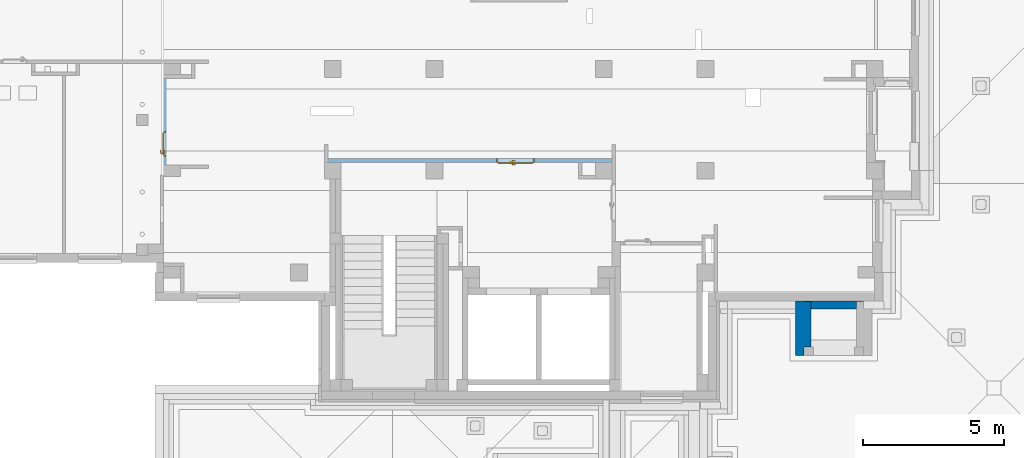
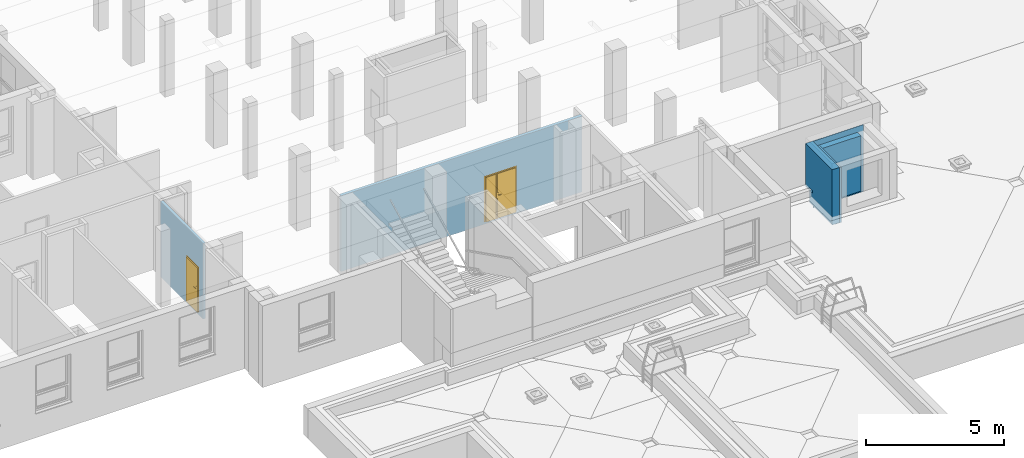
# One storey, part 40 of 50: 2 doors, 2 walls, 2 openings, plus 2 elements that do not belong to this part.
"""IFC4 building model written with IfcOpenShell, lengths in metres."""

from ifc_helpers import new_model, entity, si_unit, converted_unit, derived_unit, frame, frame_2d, origin, origin_with_axes, place, context, subcontext, project, spatial, polyline, rectangle, outline, extrude, closed_shell, open_shell, faceted_brep, surface_model, source, transform, mapped, material, layer, layer_set, layer_usage, type_object, element, fill, save


model = new_model("IFC4")

# Units and contexts
model_context = context("Model", 3, precision=1e-05, world=origin())
body_context = subcontext(model_context, "Body", "Model", "MODEL_VIEW")
ifc_project = project(units=[si_unit("LENGTHUNIT", "METRE"), si_unit("AREAUNIT", "SQUARE_METRE"), si_unit("VOLUMEUNIT", "CUBIC_METRE"), si_unit("MASSUNIT", "GRAM", prefix="KILO"), converted_unit("PLANEANGLEUNIT", "DEGREE", entity("IfcPlaneAngleMeasure", 0.0174532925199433), si_unit("PLANEANGLEUNIT", "RADIAN"), dimensions=[0, 0, 0, 0, 0, 0, 0]), derived_unit("THERMALTRANSMITTANCEUNIT", [(si_unit("POWERUNIT", "WATT"), 1), (si_unit("THERMODYNAMICTEMPERATUREUNIT", "KELVIN"), -1), (si_unit("LENGTHUNIT", "METRE"), -2)]), derived_unit("VOLUMETRICFLOWRATEUNIT", [(si_unit("LENGTHUNIT", "METRE"), 3), (converted_unit("TIMEUNIT", "hour", entity("IfcTimeMeasure", 3600.0), si_unit("TIMEUNIT", "SECOND"), dimensions=[0, 0, 1, 0, 0, 0, 0]), -1), (si_unit("LENGTHUNIT", "METRE"), -1)])], contexts=[model_context])

# Site, building, storey
site_placement = place(None, origin())
site = spatial("IfcSite", under=ifc_project, at=site_placement, Name="3. ASŘ", CompositionType="ELEMENT")
building_placement = place(site_placement, origin())
building = spatial("IfcBuilding", under=site, at=building_placement, Name="Pavilon C", CompositionType="ELEMENT")
storey_placement = place(building_placement, frame((0.0, 0.0, 3.6)))
storey = spatial("IfcBuildingStorey", under=building, at=storey_placement, Name="Půdorys 2.NP", CompositionType="ELEMENT", Elevation=3.6)

# Wall, opening, door
ifc_material_1 = material(Name="ZDIVO Z CDm")
ifc_layer_1 = layer(ifc_material_1, 0.125)
ifc_layer_set_1 = layer_set([ifc_layer_1])
ifc_layer_usage_1 = layer_usage(ifc_layer_set_1, "AXIS2", "POSITIVE", 0.0)
wall_1_placement = place(storey_placement, frame((30.575, 3.9, -0.1)))
wall_1 = element("IfcWall", 1, at=wall_1_placement, inside=storey, material=ifc_layer_usage_1, Name="ZDIVO Z CDm", context=body_context, shape_type="SweptSolid", body=[
    extrude(rectangle(XDim=10.075, YDim=0.125, at=frame_2d((5.0375, 0.0625000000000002), x_axis=(1.0, 0.0))), origin_with_axes(), (0.0, 0.0, 1.0), 3.35),
])
opening_1_placement = place(wall_1_placement, frame((5.976, 0.0, 0.1), z_axis=(0.0, 1.0, 0.0), x_axis=(0.0, 0.0, 1.0)))
opening_1 = element("IfcOpeningElement", 2, at=opening_1_placement, cuts=wall_1, Name="Dveřní otvor", ObjectType="Opening", context=body_context, shape_type="SweptSolid", body=[
    extrude(outline(polyline([(0.0, 1.35), (2.02, 1.35), (2.02, 0.0), (0.0, 0.0), (0.0, 1.35)])), origin_with_axes(), (0.0, 0.0, 1.0), 0.125),
])
door_type_1 = type_object("IfcDoorType", Name="D501", OperationType="NOTDEFINED", ParameterTakesPrecedence=False, PredefinedType="DOOR")
shared_shape_1 = source(origin_with_axes(), body_context, "Body", "SurfaceModel", [
    surface_model("IfcShellBasedSurfaceModel", [(0.0, 0.125, 2.02), (0.0, 0.125, -7.65404249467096e-18), (0.05, 0.125, -7.65404249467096e-18), (0.05, 0.125, 2.02), (0.0, 0.0, 7.65404249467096e-18), (0.0, 2.41584530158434e-16, 2.02), (0.05, 2.41584530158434e-16, 2.02), (0.05, 0.0, 7.65404249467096e-18)], [closed_shell([[[0, 1, 2, 3]], [[4, 5, 6, 7]], [[1, 0, 5, 4]], [[2, 1, 4, 7]], [[3, 2, 7, 6]], [[0, 3, 6, 5]]], orient=[[False], [False], [False], [False], [False], [False]])]),
    surface_model("IfcShellBasedSurfaceModel", [(1.3, 0.125, 2.02), (1.3, 0.125, -7.65404249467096e-18), (1.35, 0.125, -7.65404249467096e-18), (1.35, 0.125, 2.02), (1.3, 0.0, 7.65404249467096e-18), (1.3, 2.41584530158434e-16, 2.02), (1.35, 2.41584530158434e-16, 2.02), (1.35, 0.0, 7.65404249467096e-18)], [closed_shell([[[0, 1, 2, 3]], [[4, 5, 6, 7]], [[1, 0, 5, 4]], [[2, 1, 4, 7]], [[3, 2, 7, 6]], [[0, 3, 6, 5]]], orient=[[False], [False], [False], [False], [False], [False]])]),
    surface_model("IfcShellBasedSurfaceModel", [(0.05, 0.125, 2.02), (0.05, 0.125, 1.97), (1.3, 0.125, 1.97), (1.3, 0.125, 2.02), (0.05, 2.41584530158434e-16, 1.97), (0.05, 2.41584530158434e-16, 2.02), (1.3, 2.41584530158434e-16, 2.02), (1.3, 2.41584530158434e-16, 1.97)], [closed_shell([[[0, 1, 2, 3]], [[4, 5, 6, 7]], [[1, 0, 5, 4]], [[2, 1, 4, 7]], [[3, 2, 7, 6]], [[0, 3, 6, 5]]], orient=[[False], [False], [False], [False], [False], [False]])]),
    surface_model("IfcShellBasedSurfaceModel", [(0.05, 0.165, 1.97), (0.05, 0.165, -1.25526296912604e-17), (0.499, 0.165, -1.25526296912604e-17), (0.499, 0.165, 1.97), (0.05, 0.125, -7.65404249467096e-18), (0.05, 0.125, 1.97), (0.499, 0.125, 1.97), (0.499, 0.125, -7.65404249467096e-18)], [closed_shell([[[0, 1, 2, 3]], [[4, 5, 6, 7]], [[1, 0, 5, 4]], [[2, 1, 4, 7]], [[3, 2, 7, 6]], [[0, 3, 6, 5]]], orient=[[False], [False], [False], [False], [False], [False]])]),
    surface_model("IfcShellBasedSurfaceModel", [(0.479, 0.165, 1.97), (0.519, 0.165, 1.97), (0.519, 0.165, -1.25526296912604e-17), (0.479, 0.165, -1.25526296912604e-17), (0.479, 0.185, -1.50019232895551e-17), (0.519, 0.185, -1.50019232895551e-17), (0.519, 0.185, 1.97), (0.479, 0.185, 1.97)], [closed_shell([[[0, 1, 2, 3]], [[4, 5, 6, 7]], [[3, 4, 7, 0]], [[2, 5, 4, 3]], [[1, 6, 5, 2]], [[0, 7, 6, 1]]], orient=[[False], [False], [False], [False], [False], [False]])]),
    surface_model("IfcShellBasedSurfaceModel", [(0.5, 0.165, 1.97), (0.5, 0.165, -1.25526296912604e-17), (1.3, 0.165, -1.25526296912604e-17), (1.3, 0.165, 1.97), (0.5, 0.125, -7.65404249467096e-18), (0.5, 0.125, 1.97), (1.3, 0.125, 1.97), (1.3, 0.125, -7.65404249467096e-18)], [closed_shell([[[0, 1, 2, 3]], [[4, 5, 6, 7]], [[1, 0, 5, 4]], [[2, 1, 4, 7]], [[3, 2, 7, 6]], [[0, 3, 6, 5]]], orient=[[False], [False], [False], [False], [False], [False]])]),
    surface_model("IfcShellBasedSurfaceModel", [(0.48, 0.125, 1.97), (0.48, 0.125, -7.65404249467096e-18), (0.52, 0.125, -7.65404249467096e-18), (0.52, 0.125, 1.97), (0.48, 0.105, -5.20474889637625e-18), (0.48, 0.105, 1.97), (0.52, 0.105, 1.97), (0.52, 0.105, -5.20474889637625e-18)], [closed_shell([[[0, 1, 2, 3]], [[4, 5, 6, 7]], [[1, 0, 5, 4]], [[2, 1, 4, 7]], [[3, 2, 7, 6]], [[0, 3, 6, 5]]], orient=[[False], [False], [False], [False], [False], [False]])]),
    surface_model("IfcShellBasedSurfaceModel", [(0.54, 0.125, 1.125), (0.54, 0.125, 0.91), (0.59, 0.125, 0.91), (0.59, 0.125, 1.125), (0.54, 0.115, 0.91), (0.54, 0.115, 1.125), (0.59, 0.115, 1.125), (0.59, 0.115, 0.91)], [closed_shell([[[0, 1, 2, 3]], [[4, 5, 6, 7]], [[1, 0, 5, 4]], [[2, 1, 4, 7]], [[3, 2, 7, 6]], [[0, 3, 6, 5]]], orient=[[False], [False], [False], [False], [False], [False]])]),
    surface_model("IfcShellBasedSurfaceModel", [(0.565, 0.115, 1.06), (0.56, 0.115, 1.05866025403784), (0.556339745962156, 0.115, 1.055), (0.555, 0.115, 1.05), (0.556339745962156, 0.115, 1.045), (0.56, 0.115, 1.04133974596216), (0.565, 0.115, 1.04), (0.57, 0.115, 1.04133974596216), (0.573660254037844, 0.115, 1.045), (0.575, 0.115, 1.05), (0.573660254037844, 0.115, 1.055), (0.57, 0.115, 1.05866025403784), (0.565, 0.0750000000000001, 1.06), (0.56, 0.0700000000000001, 1.05866025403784), (0.556339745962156, 0.0663397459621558, 1.055), (0.555, 0.0650000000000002, 1.05), (0.556339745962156, 0.0663397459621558, 1.045), (0.56, 0.0700000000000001, 1.04133974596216), (0.565, 0.0750000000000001, 1.04), (0.57, 0.0800000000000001, 1.04133974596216), (0.573660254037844, 0.0836602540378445, 1.045), (0.575, 0.0850000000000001, 1.05), (0.573660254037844, 0.0836602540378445, 1.055), (0.57, 0.0800000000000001, 1.05866025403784), (0.68, 0.0750000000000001, 1.06), (0.68, 0.0700000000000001, 1.05866025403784), (0.68, 0.0663397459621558, 1.055), (0.68, 0.0650000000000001, 1.05), (0.68, 0.0663397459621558, 1.045), (0.68, 0.0700000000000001, 1.04133974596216), (0.68, 0.0750000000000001, 1.04), (0.68, 0.0800000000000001, 1.04133974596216), (0.68, 0.0836602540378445, 1.045), (0.68, 0.0850000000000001, 1.05), (0.68, 0.0836602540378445, 1.055), (0.68, 0.0800000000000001, 1.05866025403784)], [open_shell([[[0, 1, 2, 3, 4, 5, 6, 7, 8, 9, 10, 11]], [[0, 12, 13, 1]], [[1, 13, 14, 2]], [[2, 14, 15, 3]], [[3, 15, 16, 4]], [[4, 16, 17, 5]], [[5, 17, 18, 6]], [[6, 18, 19, 7]], [[7, 19, 20, 8]], [[8, 20, 21, 9]], [[9, 21, 22, 10]], [[10, 22, 23, 11]], [[11, 23, 12, 0]], [[12, 24, 25, 13]], [[13, 25, 26, 14]], [[14, 26, 27, 15]], [[15, 27, 28, 16]], [[16, 28, 29, 17]], [[17, 29, 30, 18]], [[18, 30, 31, 19]], [[19, 31, 32, 20]], [[20, 32, 33, 21]], [[21, 33, 34, 22]], [[22, 34, 35, 23]], [[23, 35, 24, 12]]], orient=[[False], [False], [False], [False], [False], [False], [False], [False], [False], [False], [False], [False], [False], [False], [False], [False], [False], [False], [False], [False], [False], [False], [False], [False], [False]])]),
    surface_model("IfcShellBasedSurfaceModel", [(0.54, 0.165, 1.125), (0.59, 0.165, 1.125), (0.59, 0.165, 0.91), (0.54, 0.165, 0.91), (0.54, 0.175, 0.91), (0.59, 0.175, 0.91), (0.59, 0.175, 1.125), (0.54, 0.175, 1.125)], [closed_shell([[[0, 1, 2, 3]], [[4, 5, 6, 7]], [[3, 4, 7, 0]], [[2, 5, 4, 3]], [[1, 6, 5, 2]], [[0, 7, 6, 1]]], orient=[[False], [False], [False], [False], [False], [False]])]),
    surface_model("IfcShellBasedSurfaceModel", [(0.565, 0.175, 1.06), (0.57, 0.175, 1.05866025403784), (0.573660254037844, 0.175, 1.055), (0.575, 0.175, 1.05), (0.573660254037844, 0.175, 1.045), (0.57, 0.175, 1.04133974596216), (0.565, 0.175, 1.04), (0.56, 0.175, 1.04133974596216), (0.556339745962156, 0.175, 1.045), (0.555, 0.175, 1.05), (0.556339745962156, 0.175, 1.055), (0.56, 0.175, 1.05866025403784), (0.56, 0.22, 1.05866025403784), (0.565, 0.215, 1.06), (0.556339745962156, 0.223660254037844, 1.055), (0.555, 0.225, 1.05), (0.556339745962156, 0.223660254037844, 1.045), (0.56, 0.22, 1.04133974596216), (0.565, 0.215, 1.04), (0.57, 0.21, 1.04133974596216), (0.573660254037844, 0.206339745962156, 1.045), (0.575, 0.205, 1.05), (0.573660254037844, 0.206339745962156, 1.055), (0.57, 0.21, 1.05866025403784), (0.68, 0.22, 1.05866025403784), (0.68, 0.215, 1.06), (0.68, 0.223660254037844, 1.055), (0.68, 0.225, 1.05), (0.68, 0.223660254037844, 1.045), (0.68, 0.22, 1.04133974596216), (0.68, 0.215, 1.04), (0.68, 0.21, 1.04133974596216), (0.68, 0.206339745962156, 1.045), (0.68, 0.205, 1.05), (0.68, 0.206339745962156, 1.055), (0.68, 0.21, 1.05866025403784)], [open_shell([[[0, 1, 2, 3, 4, 5, 6, 7, 8, 9, 10, 11]], [[0, 11, 12, 13]], [[11, 10, 14, 12]], [[10, 9, 15, 14]], [[9, 8, 16, 15]], [[8, 7, 17, 16]], [[7, 6, 18, 17]], [[6, 5, 19, 18]], [[5, 4, 20, 19]], [[4, 3, 21, 20]], [[3, 2, 22, 21]], [[2, 1, 23, 22]], [[1, 0, 13, 23]], [[13, 12, 24, 25]], [[12, 14, 26, 24]], [[14, 15, 27, 26]], [[15, 16, 28, 27]], [[16, 17, 29, 28]], [[17, 18, 30, 29]], [[18, 19, 31, 30]], [[19, 20, 32, 31]], [[20, 21, 33, 32]], [[21, 22, 34, 33]], [[22, 23, 35, 34]], [[23, 13, 25, 35]]], orient=[[False], [False], [False], [False], [False], [False], [False], [False], [False], [False], [False], [False], [False], [False], [False], [False], [False], [False], [False], [False], [False], [False], [False], [False], [False]])]),
])
door_1_placement = place(opening_1_placement, frame((0.0, 0.0, 0.125), z_axis=(1.0, 0.0, 0.0), x_axis=(0.0, 1.0, -1.22464679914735e-16)))
door_1 = element("IfcDoor", 3, at=door_1_placement, inside=storey, type_object=door_type_1, Name="D501", OverallHeight=2.02, OverallWidth=1.35, context=body_context, shape_type="MappedRepresentation", body=[
    mapped(shared_shape_1, transform((0.0, 0.0, 0.0), x_axis=(1.0, 0.0, 0.0), y_axis=(0.0, -1.0, 0.0), z_axis=(0.0, 0.0, 1.0), scale=1.0)),
])
fill(opening_1, door_1)

ifc_material_2 = material(Name="PÓROBETONOVÉ ZDIVO")
ifc_layer_2 = layer(ifc_material_2, 0.1)
ifc_layer_set_2 = layer_set([ifc_layer_2])
ifc_layer_usage_2 = layer_usage(ifc_layer_set_2, "AXIS2", "POSITIVE", 0.0)
wall_2_placement = place(storey_placement, frame((24.75, 6.87500000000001, -0.1), z_axis=(0.0, 0.0, 1.0), x_axis=(0.0, -1.0, 0.0)))
wall_2 = element("IfcWall", 4, at=wall_2_placement, inside=storey, material=ifc_layer_usage_2, Name="PÓROBETONOVÉ ZDIVO", context=body_context, shape_type="SweptSolid", body=[
    extrude(rectangle(XDim=3.07500000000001, YDim=0.1, at=frame_2d((1.5375, 0.05), x_axis=(1.0, 0.0))), origin_with_axes(), (0.0, 0.0, 1.0), 3.35),
])
opening_2_placement = place(wall_2_placement, frame((1.87500000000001, 0.0, 0.1), z_axis=(0.0, 1.0, 0.0), x_axis=(0.0, 0.0, 1.0)))
opening_2 = element("IfcOpeningElement", 5, at=opening_2_placement, cuts=wall_2, Name="Dveřní otvor", ObjectType="Opening", context=body_context, shape_type="SweptSolid", body=[
    extrude(outline(polyline([(0.0, 0.9), (2.02, 0.9), (2.02, 0.0), (0.0, 0.0), (0.0, 0.9)])), origin_with_axes(), (0.0, 0.0, 1.0), 0.1),
])
door_type_2 = type_object("IfcDoorType", Name="D101", OperationType="NOTDEFINED", ParameterTakesPrecedence=False, PredefinedType="DOOR")
shared_shape_2 = source(origin_with_axes(), body_context, "Body", "SurfaceModel", [
    surface_model("IfcShellBasedSurfaceModel", [(0.0, 0.1, 2.02), (0.0, 0.1, -6.12323399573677e-18), (0.05, 0.1, -6.12323399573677e-18), (0.05, 0.1, 2.02), (0.0, 0.0, 6.12323399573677e-18), (0.0, 2.41584530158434e-16, 2.02), (0.05, 2.41584530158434e-16, 2.02), (0.05, 0.0, 6.12323399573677e-18)], [closed_shell([[[0, 1, 2, 3]], [[4, 5, 6, 7]], [[1, 0, 5, 4]], [[2, 1, 4, 7]], [[3, 2, 7, 6]], [[0, 3, 6, 5]]], orient=[[False], [False], [False], [False], [False], [False]])]),
    surface_model("IfcShellBasedSurfaceModel", [(0.85, 0.1, 2.02), (0.85, 0.1, -6.12323399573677e-18), (0.9, 0.1, -6.12323399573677e-18), (0.9, 0.1, 2.02), (0.85, 0.0, 6.12323399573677e-18), (0.85, 2.41584530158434e-16, 2.02), (0.9, 2.41584530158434e-16, 2.02), (0.9, 0.0, 6.12323399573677e-18)], [closed_shell([[[0, 1, 2, 3]], [[4, 5, 6, 7]], [[1, 0, 5, 4]], [[2, 1, 4, 7]], [[3, 2, 7, 6]], [[0, 3, 6, 5]]], orient=[[False], [False], [False], [False], [False], [False]])]),
    surface_model("IfcShellBasedSurfaceModel", [(0.05, 0.1, 2.02), (0.05, 0.1, 1.97), (0.85, 0.1, 1.97), (0.85, 0.1, 2.02), (0.05, 2.41584530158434e-16, 1.97), (0.05, 2.41584530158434e-16, 2.02), (0.85, 2.41584530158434e-16, 2.02), (0.85, 2.41584530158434e-16, 1.97)], [closed_shell([[[0, 1, 2, 3]], [[4, 5, 6, 7]], [[1, 0, 5, 4]], [[2, 1, 4, 7]], [[3, 2, 7, 6]], [[0, 3, 6, 5]]], orient=[[False], [False], [False], [False], [False], [False]])]),
    surface_model("IfcShellBasedSurfaceModel", [(0.05, 0.14, 1.97), (0.05, 0.14, -1.10218211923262e-17), (0.85, 0.14, -1.10218211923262e-17), (0.85, 0.14, 1.97), (0.05, 0.1, -6.12323399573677e-18), (0.05, 0.1, 1.97), (0.85, 0.1, 1.97), (0.85, 0.1, -6.12323399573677e-18)], [closed_shell([[[0, 1, 2, 3]], [[4, 5, 6, 7]], [[1, 0, 5, 4]], [[2, 1, 4, 7]], [[3, 2, 7, 6]], [[0, 3, 6, 5]]], orient=[[False], [False], [False], [False], [False], [False]])]),
    surface_model("IfcShellBasedSurfaceModel", [(0.76, 0.1, 1.125), (0.76, 0.1, 0.91), (0.81, 0.1, 0.91), (0.81, 0.1, 1.125), (0.76, 0.0900000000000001, 0.91), (0.76, 0.0900000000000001, 1.125), (0.81, 0.0900000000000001, 1.125), (0.81, 0.0900000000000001, 0.91)], [closed_shell([[[0, 1, 2, 3]], [[4, 5, 6, 7]], [[1, 0, 5, 4]], [[2, 1, 4, 7]], [[3, 2, 7, 6]], [[0, 3, 6, 5]]], orient=[[False], [False], [False], [False], [False], [False]])]),
    surface_model("IfcShellBasedSurfaceModel", [(0.785, 0.0900000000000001, 1.06), (0.78, 0.0900000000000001, 1.05866025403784), (0.776339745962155, 0.0900000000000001, 1.055), (0.775, 0.0900000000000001, 1.05), (0.776339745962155, 0.0900000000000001, 1.045), (0.78, 0.0900000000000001, 1.04133974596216), (0.785, 0.0900000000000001, 1.04), (0.79, 0.0900000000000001, 1.04133974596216), (0.793660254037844, 0.0900000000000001, 1.045), (0.795, 0.0900000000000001, 1.05), (0.793660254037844, 0.0900000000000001, 1.055), (0.79, 0.0900000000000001, 1.05866025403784), (0.79, 0.0450000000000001, 1.05866025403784), (0.785, 0.0500000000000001, 1.06), (0.793660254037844, 0.0413397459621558, 1.055), (0.795, 0.0400000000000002, 1.05), (0.793660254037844, 0.0413397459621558, 1.045), (0.79, 0.0450000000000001, 1.04133974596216), (0.785, 0.0500000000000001, 1.04), (0.78, 0.0550000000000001, 1.04133974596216), (0.776339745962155, 0.0586602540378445, 1.045), (0.775, 0.0600000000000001, 1.05), (0.776339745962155, 0.0586602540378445, 1.055), (0.78, 0.0550000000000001, 1.05866025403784), (0.67, 0.0450000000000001, 1.05866025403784), (0.67, 0.0500000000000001, 1.06), (0.67, 0.0413397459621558, 1.055), (0.67, 0.0400000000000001, 1.05), (0.67, 0.0413397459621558, 1.045), (0.67, 0.0450000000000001, 1.04133974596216), (0.67, 0.0500000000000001, 1.04), (0.67, 0.0550000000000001, 1.04133974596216), (0.67, 0.0586602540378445, 1.045), (0.67, 0.0600000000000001, 1.05), (0.67, 0.0586602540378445, 1.055), (0.67, 0.0550000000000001, 1.05866025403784)], [open_shell([[[0, 1, 2, 3, 4, 5, 6, 7, 8, 9, 10, 11]], [[0, 11, 12, 13]], [[11, 10, 14, 12]], [[10, 9, 15, 14]], [[9, 8, 16, 15]], [[8, 7, 17, 16]], [[7, 6, 18, 17]], [[6, 5, 19, 18]], [[5, 4, 20, 19]], [[4, 3, 21, 20]], [[3, 2, 22, 21]], [[2, 1, 23, 22]], [[1, 0, 13, 23]], [[13, 12, 24, 25]], [[12, 14, 26, 24]], [[14, 15, 27, 26]], [[15, 16, 28, 27]], [[16, 17, 29, 28]], [[17, 18, 30, 29]], [[18, 19, 31, 30]], [[19, 20, 32, 31]], [[20, 21, 33, 32]], [[21, 22, 34, 33]], [[22, 23, 35, 34]], [[23, 13, 25, 35]]], orient=[[False], [False], [False], [False], [False], [False], [False], [False], [False], [False], [False], [False], [False], [False], [False], [False], [False], [False], [False], [False], [False], [False], [False], [False], [False]])]),
    surface_model("IfcShellBasedSurfaceModel", [(0.76, 0.14, 1.125), (0.81, 0.14, 1.125), (0.81, 0.14, 0.91), (0.76, 0.14, 0.91), (0.76, 0.15, 0.91), (0.81, 0.15, 0.91), (0.81, 0.15, 1.125), (0.76, 0.15, 1.125)], [closed_shell([[[0, 1, 2, 3]], [[4, 5, 6, 7]], [[3, 4, 7, 0]], [[2, 5, 4, 3]], [[1, 6, 5, 2]], [[0, 7, 6, 1]]], orient=[[False], [False], [False], [False], [False], [False]])]),
    surface_model("IfcShellBasedSurfaceModel", [(0.785, 0.15, 1.06), (0.79, 0.15, 1.05866025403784), (0.793660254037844, 0.15, 1.055), (0.795, 0.15, 1.05), (0.793660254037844, 0.15, 1.045), (0.79, 0.15, 1.04133974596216), (0.785, 0.15, 1.04), (0.78, 0.15, 1.04133974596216), (0.776339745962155, 0.15, 1.045), (0.775, 0.15, 1.05), (0.776339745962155, 0.15, 1.055), (0.78, 0.15, 1.05866025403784), (0.785, 0.19, 1.06), (0.79, 0.195, 1.05866025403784), (0.793660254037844, 0.198660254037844, 1.055), (0.795, 0.2, 1.05), (0.793660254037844, 0.198660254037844, 1.045), (0.79, 0.195, 1.04133974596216), (0.785, 0.19, 1.04), (0.78, 0.185, 1.04133974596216), (0.776339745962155, 0.181339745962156, 1.045), (0.775, 0.18, 1.05), (0.776339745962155, 0.181339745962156, 1.055), (0.78, 0.185, 1.05866025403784), (0.67, 0.19, 1.06), (0.67, 0.195, 1.05866025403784), (0.67, 0.198660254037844, 1.055), (0.67, 0.2, 1.05), (0.67, 0.198660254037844, 1.045), (0.67, 0.195, 1.04133974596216), (0.67, 0.19, 1.04), (0.67, 0.185, 1.04133974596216), (0.67, 0.181339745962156, 1.045), (0.67, 0.18, 1.05), (0.67, 0.181339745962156, 1.055), (0.67, 0.185, 1.05866025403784)], [open_shell([[[0, 1, 2, 3, 4, 5, 6, 7, 8, 9, 10, 11]], [[0, 12, 13, 1]], [[1, 13, 14, 2]], [[2, 14, 15, 3]], [[3, 15, 16, 4]], [[4, 16, 17, 5]], [[5, 17, 18, 6]], [[6, 18, 19, 7]], [[7, 19, 20, 8]], [[8, 20, 21, 9]], [[9, 21, 22, 10]], [[10, 22, 23, 11]], [[11, 23, 12, 0]], [[12, 24, 25, 13]], [[13, 25, 26, 14]], [[14, 26, 27, 15]], [[15, 27, 28, 16]], [[16, 28, 29, 17]], [[17, 29, 30, 18]], [[18, 30, 31, 19]], [[19, 31, 32, 20]], [[20, 32, 33, 21]], [[21, 33, 34, 22]], [[22, 34, 35, 23]], [[23, 35, 24, 12]]], orient=[[False], [False], [False], [False], [False], [False], [False], [False], [False], [False], [False], [False], [False], [False], [False], [False], [False], [False], [False], [False], [False], [False], [False], [False], [False]])]),
])
door_2_placement = place(opening_2_placement, frame((0.0, 1.81898940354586e-15, 0.0999999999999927), z_axis=(1.0, 0.0, 0.0), x_axis=(0.0, 1.0, -1.22464679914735e-16)))
door_2 = element("IfcDoor", 6, at=door_2_placement, inside=storey, type_object=door_type_2, Name="D101", OverallHeight=2.02, OverallWidth=0.9, context=body_context, shape_type="MappedRepresentation", body=[
    mapped(shared_shape_2, transform((0.0, 0.0, 0.0), x_axis=(1.0, 0.0, 0.0), y_axis=(0.0, -1.0, 0.0), z_axis=(0.0, 0.0, 1.0), scale=1.0)),
])
fill(opening_2, door_2)

# Walls
ifc_material_3 = material(Name="ZELEZOBETONOVÁ KCE")
wall_3_placement = place(storey_placement, frame((47.15, -2.94000000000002, 0.05)))
element("IfcWall", 7, at=wall_3_placement, inside=storey, material=ifc_material_3, Name="MINERÁLNÍ VATA", context=body_context, shape_type="Brep", body=[
    faceted_brep([(0.213086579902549, 1.67444699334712, 0.8), (0.213086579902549, 1.92, 0.8), (0.0, 1.92, 0.8), (0.0, 1.67444699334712, 0.8), (0.213086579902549, 1.92, 0.9), (0.213086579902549, 1.67444699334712, 0.9), (0.3, 1.42444699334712, 0.9), (0.3, 1.9, 0.9), (0.3, 1.92, 0.9), (0.0, 1.67444699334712, 0.9), (0.0, 1.42444699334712, 0.9), (0.0, 1.42444699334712, 0.8), (0.3, 1.42444699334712, 0.8), (0.3, 1.65000000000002, 0.8), (0.0, 1.65000000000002, 0.8), (0.3, 1.65000000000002, 0.26), (0.0, 1.65000000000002, 0.26), (0.3, 1.92, 2.7), (0.0, 1.92, 2.7), (0.0, 0.0, 2.7), (0.0, 0.0, 0.26), (0.3, 0.3, 2.45), (0.3, 0.3, 0.26), (0.3, 0.0, 0.26), (0.3, 0.0, 2.7), (0.3, 1.9, 2.45), (0.3, 0.3, 0.0), (0.3, 1.9, 0.0), (0.55, 1.9, 0.0), (0.55, 0.3, 0.0), (0.55, 0.3, 2.45), (0.55, 1.9, 2.45)], [[[0, 1, 2, 3]], [[4, 1, 0, 5]], [[6, 7, 8, 4, 5, 9, 10]], [[5, 0, 3, 9]], [[10, 11, 12, 6]], [[13, 12, 11, 14]], [[15, 13, 14, 16]], [[1, 4, 8, 17, 18, 2]], [[2, 18, 19, 20, 16, 14, 11, 10, 9, 3]], [[21, 22, 23, 24, 17, 8, 7, 25]], [[23, 20, 19, 24]], [[24, 19, 18, 17]], [[16, 20, 23, 22, 15]], [[26, 27, 7, 6, 12, 13, 15, 22]], [[28, 29, 30, 31]], [[30, 21, 25, 31]], [[29, 26, 22, 21, 30]], [[27, 26, 29, 28]], [[7, 27, 28, 31, 25]]], orient=[[False], [False], [False], [False], [False], [False], [False], [False], [False], [False], [False], [False], [False], [False], [False], [False], [False], [False], [False]]),
])
ifc_material_4 = material(Name="EPS")
wall_4_placement = place(storey_placement, frame((47.45, -1.29000000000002, -0.2)))
element("IfcWall", 8, at=wall_4_placement, inside=storey, material=ifc_material_4, Name="MINERÁLNÍ VATA", context=body_context, shape_type="Brep", body=[
    faceted_brep([(0.163086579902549, 0.27, 1.15), (0.163086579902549, 0.27, 1.05), (0.0, 0.27, 1.05), (0.0, 0.27, 0.0), (2.1, 0.27, 0.0), (2.1, 0.27, 2.95), (0.0, 0.27, 2.95), (0.0, 0.27, 1.15), (0.0, 0.25, 2.95), (0.0, 0.25, 1.15), (2.1, 0.25, 2.95), (2.1, 0.25, 0.0), (0.0, 0.25, 0.0), (0.0, 0.25, 1.05), (0.163086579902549, 0.25, 1.05), (0.163086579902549, 0.25, 1.15), (0.25, 0.25, 0.25), (1.85, 0.25, 0.25), (1.85, 0.25, 2.7), (0.25, 0.25, 2.7), (1.85, -2.27373675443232e-16, 0.25), (0.25, -2.27373675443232e-16, 0.25), (0.25, -2.27373675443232e-16, 2.7), (1.85, -2.27373675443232e-16, 2.7)], [[[0, 1, 2, 3, 4, 5, 6, 7]], [[7, 6, 8, 9]], [[5, 10, 8, 6]], [[4, 11, 10, 5]], [[11, 4, 3, 12]], [[13, 12, 3, 2]], [[14, 13, 2, 1]], [[15, 14, 1, 0]], [[0, 7, 9, 15]], [[9, 8, 10, 11, 12, 13, 14, 15], [16, 17, 18, 19]], [[20, 21, 22, 23]], [[21, 16, 19, 22]], [[17, 20, 23, 18]], [[18, 23, 22, 19]], [[20, 17, 16, 21]]], orient=[[False], [False], [False], [False], [False], [False], [False], [False], [False], [False, False], [False], [False], [False], [False], [False]]),
])

save(model, "model.ifc")
